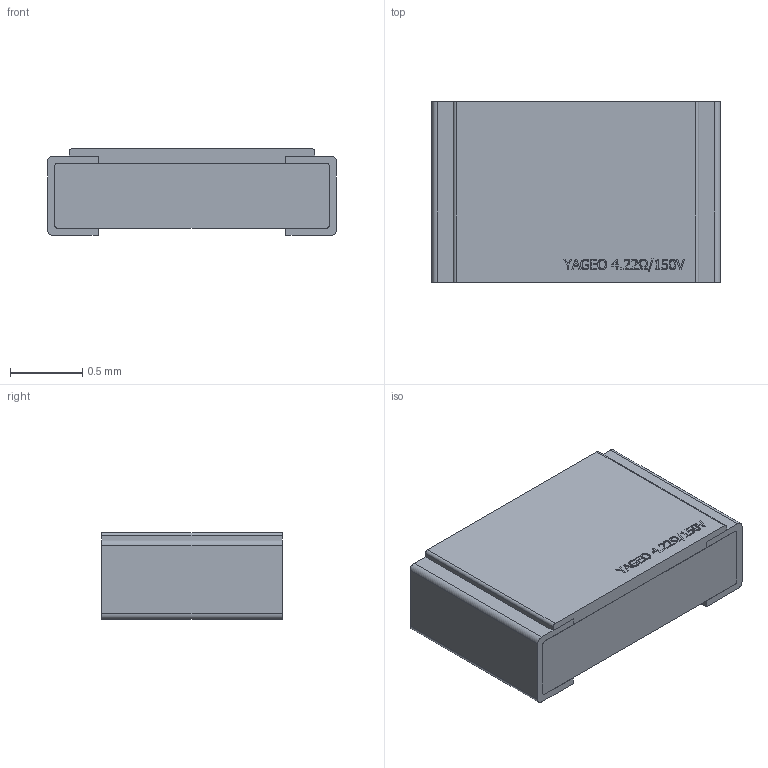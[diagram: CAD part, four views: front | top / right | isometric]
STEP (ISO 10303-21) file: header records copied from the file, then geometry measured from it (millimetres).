
FILE_DESCRIPTION(/* description */ (''),/* implementation_level */ '2;1');
FILE_NAME(/* name */ 'C:\Users\Karim\Desktop\Yageo AC0805FR-074R22L\1.stp',/* time_stamp */ '2019-05-16T21:11:02+02:00',/* author */ ('Karim'),/* organization */ (''),/* preprocessor_version */ 'ST-DEVELOPER v15.6',/* originating_system */ 'Autodesk Inventor 2015',/* authorisation */ '');
FILE_SCHEMA (('AUTOMOTIVE_DESIGN { 1 0 10303 214 3 1 1 }'));
Length unit declared in the file: millimetre
Products named in the file (5): 1; 2; 3; 4
Bounding box: 2 x 1.25 x 0.6 mm (x, y, z)
Volume: 1.4 mm3; surface area: 18.9 mm2
Topology: 19 solids, 19 shells, 279 faces, 723 edges, 482 vertices
Faces by surface type: plane 173, bspline 92, cylinder 14
Entity records: 9046 total; most frequent: CARTESIAN_POINT 2689, ORIENTED_EDGE 1446, DIRECTION 959, EDGE_CURVE 723, LINE 511, VECTOR 511, VERTEX_POINT 482, EDGE_LOOP 287
